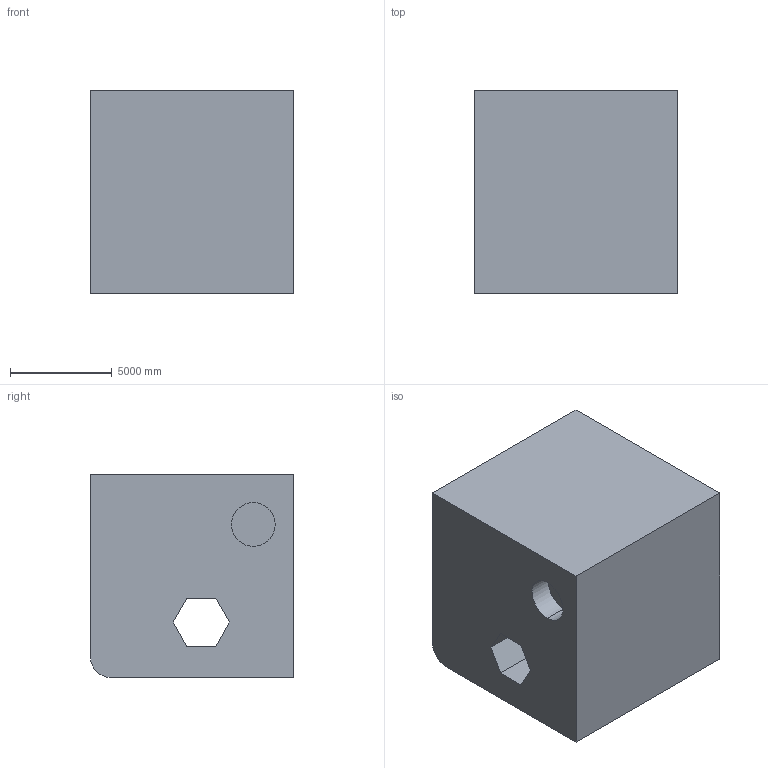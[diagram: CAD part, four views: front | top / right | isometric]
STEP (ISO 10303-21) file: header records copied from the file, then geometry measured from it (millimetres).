
FILE_DESCRIPTION (( 'STEP AP203' ), '1' );
FILE_NAME ('1267.STEP', '2022-08-18T13:28:36', ( 'user' ), ( '' ), 'SwSTEP 2.0', 'SolidWorks 2021', '' );
FILE_SCHEMA (( 'CONFIG_CONTROL_DESIGN' ));
Length unit declared in the file: centimetre
Products named in the file (1): 1267
Bounding box: 10000 x 10000 x 10000 mm (x, y, z)
Volume: 943608430326.5 mm3; surface area: 675920806.1 mm2
Topology: 1 solids, 1 shells, 16 faces, 39 edges, 26 vertices
Faces by surface type: plane 13, cylinder 3
Entity records: 550 total; most frequent: CARTESIAN_POINT 82, DIRECTION 79, ORIENTED_EDGE 78, EDGE_CURVE 39, VECTOR 33, LINE 33, VERTEX_POINT 26, AXIS2_PLACEMENT_3D 23
